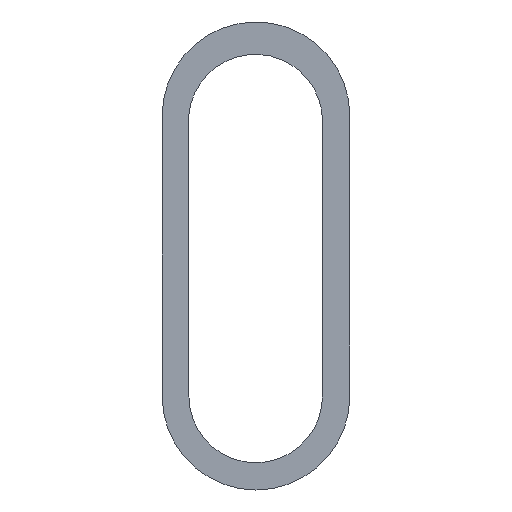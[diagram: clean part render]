
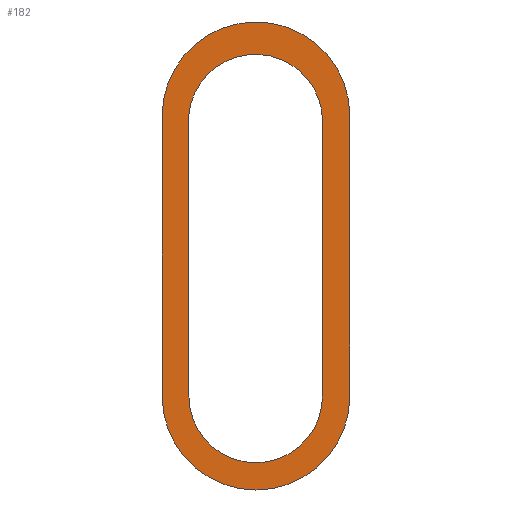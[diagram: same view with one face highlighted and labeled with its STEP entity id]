
A CAD part, front view. The second image highlights one B-rep face of the part: STEP entity #182.
In plain terms, the highlighted planar face has unit normal (0, -1, 0).
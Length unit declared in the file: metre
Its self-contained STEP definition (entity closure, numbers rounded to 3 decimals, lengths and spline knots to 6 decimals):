
#13=CIRCLE('',#200,0.035859);
#15=CIRCLE('',#205,0.050206);
#17=CIRCLE('',#209,0.050202);
#19=CIRCLE('',#212,0.035764);
#56=ORIENTED_EDGE('',*,*,#84,.F.);
#57=ORIENTED_EDGE('',*,*,#88,.F.);
#58=ORIENTED_EDGE('',*,*,#91,.F.);
#59=ORIENTED_EDGE('',*,*,#93,.F.);
#60=ORIENTED_EDGE('',*,*,#74,.F.);
#61=ORIENTED_EDGE('',*,*,#78,.F.);
#62=ORIENTED_EDGE('',*,*,#81,.F.);
#63=ORIENTED_EDGE('',*,*,#95,.F.);
#74=EDGE_CURVE('',#98,#99,#114,.T.);
#78=EDGE_CURVE('',#101,#98,#13,.T.);
#81=EDGE_CURVE('',#103,#101,#119,.T.);
#84=EDGE_CURVE('',#106,#107,#122,.T.);
#88=EDGE_CURVE('',#109,#106,#15,.T.);
#91=EDGE_CURVE('',#111,#109,#127,.T.);
#93=EDGE_CURVE('',#107,#111,#17,.T.);
#95=EDGE_CURVE('',#99,#103,#19,.T.);
#98=VERTEX_POINT('',#275);
#99=VERTEX_POINT('',#277);
#101=VERTEX_POINT('',#283);
#103=VERTEX_POINT('',#289);
#106=VERTEX_POINT('',#296);
#107=VERTEX_POINT('',#298);
#109=VERTEX_POINT('',#304);
#111=VERTEX_POINT('',#310);
#114=LINE('',#276,#130);
#119=LINE('',#290,#135);
#122=LINE('',#297,#138);
#127=LINE('',#311,#143);
#130=VECTOR('',#221,1.);
#135=VECTOR('',#234,1.);
#138=VECTOR('',#239,1.);
#143=VECTOR('',#252,1.);
#152=EDGE_LOOP('',(#56,#57,#58,#59));
#153=EDGE_LOOP('',(#60,#61,#62,#63));
#164=FACE_BOUND('',#152,.T.);
#165=FACE_BOUND('',#153,.T.);
#172=PLANE('',#213);
#182=ADVANCED_FACE('',(#164,#165),#172,.T.);
#200=AXIS2_PLACEMENT_3D('',#284,#228,#229);
#205=AXIS2_PLACEMENT_3D('',#305,#246,#247);
#209=AXIS2_PLACEMENT_3D('',#314,#257,#258);
#212=AXIS2_PLACEMENT_3D('',#317,#263,#264);
#213=AXIS2_PLACEMENT_3D('',#318,#265,#266);
#221=DIRECTION('',(0.,0.,-1.));
#228=DIRECTION('',(0.,-1.,0.));
#229=DIRECTION('',(1.,0.,0.));
#234=DIRECTION('',(0.,0.,1.));
#239=DIRECTION('',(0.,0.,-1.));
#246=DIRECTION('',(0.,1.,0.));
#247=DIRECTION('',(-1.,0.,0.));
#252=DIRECTION('',(0.,0.,1.));
#257=DIRECTION('',(0.,1.,0.));
#258=DIRECTION('',(1.,0.,0.));
#263=DIRECTION('',(0.,-1.,0.));
#264=DIRECTION('',(-1.,0.,0.));
#265=DIRECTION('',(0.,-1.,0.));
#266=DIRECTION('',(1.,0.,0.));
#275=CARTESIAN_POINT('',(-0.111802,-0.01,0.061828));
#276=CARTESIAN_POINT('',(-0.111802,-0.01,-0.013431));
#277=CARTESIAN_POINT('',(-0.111802,-0.01,-0.08869));
#283=CARTESIAN_POINT('',(-0.040273,-0.01,0.058141));
#284=CARTESIAN_POINT('',(-0.076132,-0.01,0.058141));
#289=CARTESIAN_POINT('',(-0.040273,-0.01,-0.08869));
#290=CARTESIAN_POINT('',(-0.040273,-0.01,-0.015274));
#296=CARTESIAN_POINT('',(-0.02566,-0.01,0.061939));
#297=CARTESIAN_POINT('',(-0.02566,-0.01,-0.013446));
#298=CARTESIAN_POINT('',(-0.02566,-0.01,-0.088831));
#304=CARTESIAN_POINT('',(-0.126065,-0.01,0.061113));
#305=CARTESIAN_POINT('',(-0.075859,-0.01,0.061113));
#310=CARTESIAN_POINT('',(-0.126065,-0.01,-0.088831));
#311=CARTESIAN_POINT('',(-0.126065,-0.01,-0.013859));
#314=CARTESIAN_POINT('',(-0.075863,-0.01,-0.088831));
#317=CARTESIAN_POINT('',(-0.076037,-0.01,-0.08869));
#318=CARTESIAN_POINT('',(-0.075863,-0.01,-0.013857));
